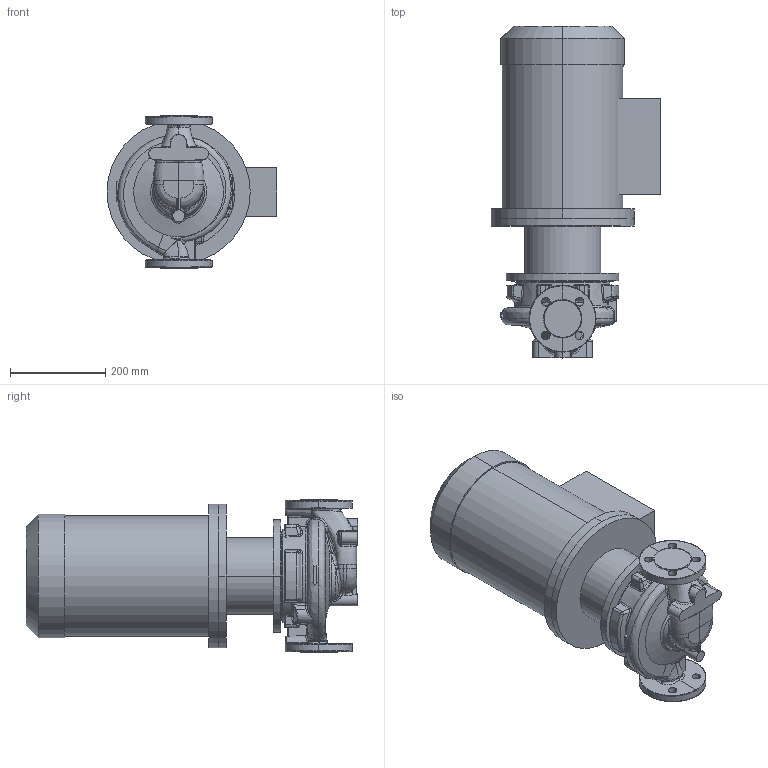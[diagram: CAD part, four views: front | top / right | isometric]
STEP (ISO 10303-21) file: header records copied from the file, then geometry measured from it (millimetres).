
FILE_DESCRIPTION (( 'STEP AP214' ), '1' );
FILE_NAME ('KRL 32-160-2-5,5.STEP', '2026-03-11T09:39:51', ( '' ), ( '' ), 'SwSTEP 2.0', 'SolidWorks 2016', '' );
FILE_SCHEMA (( 'AUTOMOTIVE_DESIGN' ));
Length unit declared in the file: millimetre
Products named in the file (1): KRL 32-160-2-5,5
Bounding box: 356 x 695.3 x 320 mm (x, y, z)
Volume: 31759876 mm3; surface area: 1146161.7 mm2
Topology: 4 solids, 4 shells, 630 faces, 1530 edges, 907 vertices
Faces by surface type: bspline 312, cylinder 116, plane 102, cone 36, torus 35, sphere 29
Entity records: 73362 total; most frequent: CARTESIAN_POINT 54461, ORIENTED_EDGE 3018, DIRECTION 1766, EDGE_CURVE 1509, VERTEX_POINT 907, AXIS2_PLACEMENT_3D 769, B_SPLINE_CURVE_WITH_KNOTS 705, EDGE_LOOP 666
